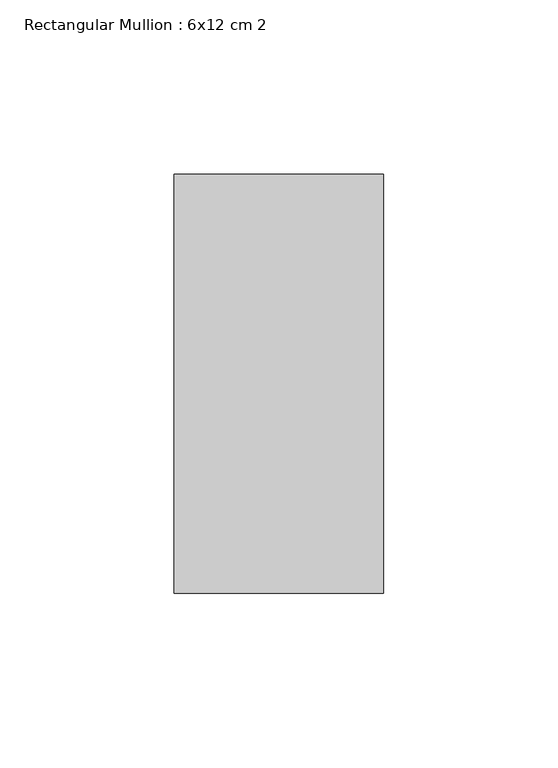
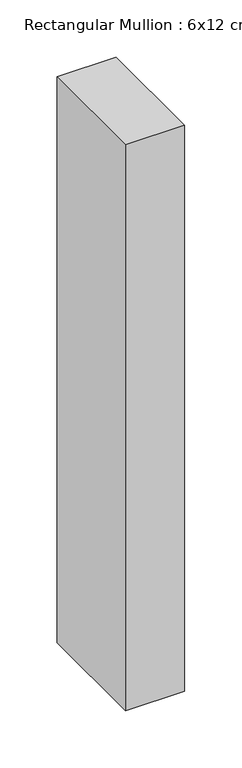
"""IFC4 building model written with IfcOpenShell, lengths in millimetres: member geometry, Rectangular Mullion : 6x12 cm 2."""

from ifc_helpers import new_model, si_unit, frame, origin, place, context, project, spatial, polyline, outline, extrude, source, transform, mapped, element, save


def rectangular_mullion_6x12_cm_2_918ff486(model_context):
    return source(origin(), model_context, "Body", "SweptSolid", [
        extrude(outline(polyline([(0.0, 205.0), (0.0, 85.0), (-60.0, 85.0), (-60.0, 205.0), (0.0, 205.0)])), frame((0.0, 0.0, -605.1659063), z_axis=(0.0, 0.0, 1.0), x_axis=(1.0, 0.0, 0.0)), (0.0, 0.0, 1.0), 605.1659063),
    ])


if __name__ == "__main__":
    model = new_model("IFC4")
    model_context = context("Model", 3, world=origin())
    ifc_project = project(units=[si_unit("LENGTHUNIT", "METRE", prefix="MILLI")], contexts=[model_context])
    site = spatial("IfcSite", under=ifc_project)
    building = spatial("IfcBuilding", under=site)
    placement = place(None, origin())
    rectangular_mullion_6x12_cm_2_shape = rectangular_mullion_6x12_cm_2_918ff486(model_context)
    element("IfcMember", 1, ObjectType="Rectangular Mullion : 6x12 cm 2", at=placement, inside=building, context=model_context, shape_type="MappedRepresentation", body=[
        mapped(rectangular_mullion_6x12_cm_2_shape, transform((0.0, 0.0, 0.0), x_axis=(1.0, 0.0, 0.0), y_axis=(0.0, 1.0, 0.0), z_axis=(0.0, 0.0, 1.0))),
    ])
    save(model, "model.ifc")
